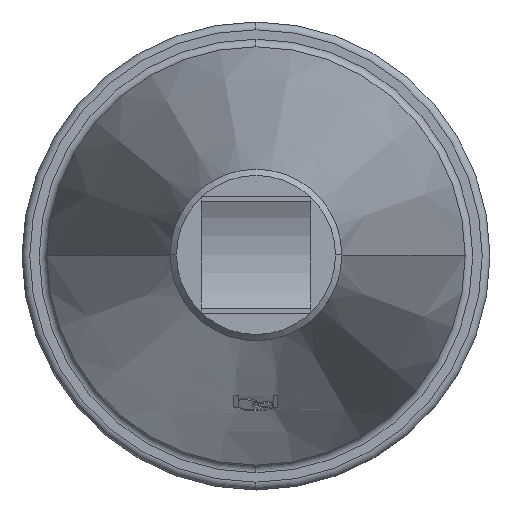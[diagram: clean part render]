
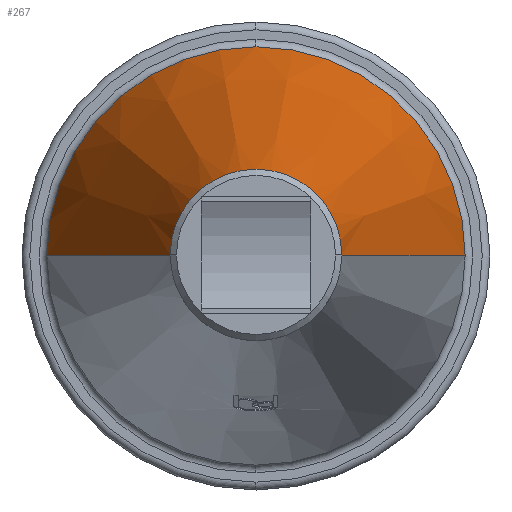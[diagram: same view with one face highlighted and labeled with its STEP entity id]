
A CAD part, top view. The second image highlights one B-rep face of the part: STEP entity #267.
In plain terms, the highlighted conical face has half-angle 13.35 degrees and reference radius 94.544 mm.
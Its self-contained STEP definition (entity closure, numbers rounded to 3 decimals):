
#267=ADVANCED_FACE('',(#585),#586,.T.);
#585=FACE_OUTER_BOUND('',#990,.T.);
#586=CONICAL_SURFACE('',#991,94.544,0.233);
#990=EDGE_LOOP('',(#1596,#1597,#1598,#1599,#1600));
#991=AXIS2_PLACEMENT_3D('',#1601,#1602,#1603);
#1596=ORIENTED_EDGE('',*,*,#2323,.T.);
#1597=ORIENTED_EDGE('',*,*,#2439,.F.);
#1598=ORIENTED_EDGE('',*,*,#2304,.F.);
#1599=ORIENTED_EDGE('',*,*,#2325,.T.);
#1600=ORIENTED_EDGE('',*,*,#2440,.T.);
#1601=CARTESIAN_POINT('',(446.981,529.266,-75.444));
#1602=DIRECTION('',(0.,0.,-1.0));
#1603=DIRECTION('',(1.0,0.,0.));
#2304=EDGE_CURVE('',#2718,#2720,#2721,.T.);
#2323=EDGE_CURVE('',#2753,#2754,#2755,.T.);
#2325=EDGE_CURVE('',#2718,#2756,#2758,.T.);
#2439=EDGE_CURVE('',#2720,#2754,#2931,.T.);
#2440=EDGE_CURVE('',#2756,#2753,#2932,.T.);
#2718=VERTEX_POINT('',#3300);
#2720=VERTEX_POINT('',#3302);
#2721=CIRCLE('',#3303,134.087);
#2753=VERTEX_POINT('',#3366);
#2754=VERTEX_POINT('',#3367);
#2755=LINE('',#3368,#3369);
#2756=VERTEX_POINT('',#3370);
#2758=LINE('',#3372,#3373);
#2931=CIRCLE('',#3928,134.087);
#2932=CIRCLE('',#3929,55.0);
#3300=CARTESIAN_POINT('',(312.893,529.266,-242.079));
#3302=CARTESIAN_POINT('',(446.981,663.353,-242.079));
#3303=AXIS2_PLACEMENT_3D('',#4490,#4491,#4492);
#3366=CARTESIAN_POINT('',(501.981,529.266,91.191));
#3367=CARTESIAN_POINT('',(581.068,529.266,-242.079));
#3368=CARTESIAN_POINT('',(541.524,529.266,-75.444));
#3369=VECTOR('',#4514,1.0);
#3370=CARTESIAN_POINT('',(391.981,529.266,91.191));
#3372=CARTESIAN_POINT('',(352.437,529.266,-75.444));
#3373=VECTOR('',#4518,1.0);
#3928=AXIS2_PLACEMENT_3D('',#4626,#4627,#4628);
#3929=AXIS2_PLACEMENT_3D('',#4629,#4630,#4631);
#4490=CARTESIAN_POINT('',(446.981,529.266,-242.079));
#4491=DIRECTION('',(0.,0.,-1.0));
#4492=DIRECTION('',(1.0,0.,0.));
#4514=DIRECTION('',(0.231,0.,-0.973));
#4518=DIRECTION('',(0.231,0.,0.973));
#4626=CARTESIAN_POINT('',(446.981,529.266,-242.079));
#4627=DIRECTION('',(0.,0.,-1.0));
#4628=DIRECTION('',(1.0,0.,0.));
#4629=CARTESIAN_POINT('',(446.981,529.266,91.191));
#4630=DIRECTION('',(0.,0.,-1.0));
#4631=DIRECTION('',(1.0,0.,0.));
